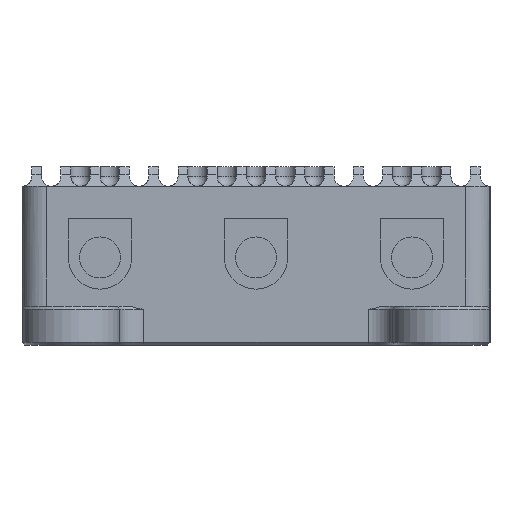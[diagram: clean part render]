
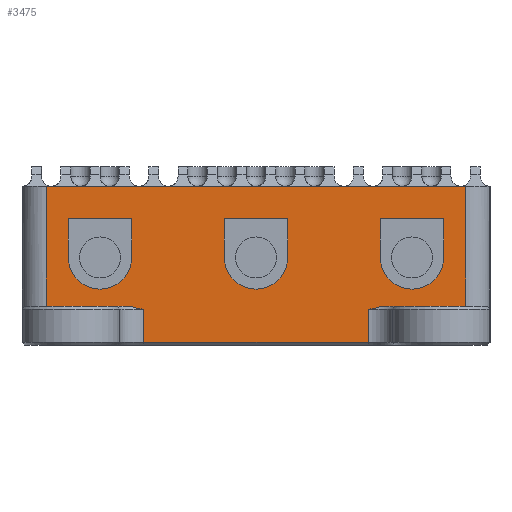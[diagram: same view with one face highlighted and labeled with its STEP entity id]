
A CAD part, left-side view. The second image highlights one B-rep face of the part: STEP entity #3475.
In plain terms, the highlighted planar face has unit normal (-1, 0, 0).
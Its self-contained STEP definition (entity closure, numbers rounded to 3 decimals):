
#1301=EDGE_CURVE('',#3855,#3856,#3857,.T.);
#1421=EDGE_CURVE('',#4072,#4073,#4074,.T.);
#1423=EDGE_CURVE('',#4076,#4073,#4077,.T.);
#1499=EDGE_CURVE('',#4205,#4206,#4207,.T.);
#1577=EDGE_CURVE('',#4337,#4338,#4339,.T.);
#1751=EDGE_CURVE('',#4638,#4639,#4640,.T.);
#2071=EDGE_CURVE('',#4076,#5137,#5138,.T.);
#2255=EDGE_CURVE('',#3856,#5403,#5404,.T.);
#2277=EDGE_CURVE('',#5122,#5436,#5437,.T.);
#2349=EDGE_CURVE('',#5541,#5122,#5542,.T.);
#2547=EDGE_CURVE('',#4639,#5810,#5811,.T.);
#2773=EDGE_CURVE('',#4337,#5820,#6105,.F.);
#2797=EDGE_CURVE('',#5896,#6137,#6138,.T.);
#2869=EDGE_CURVE('',#6228,#3855,#6229,.T.);
#2913=EDGE_CURVE('',#4338,#4072,#6282,.T.);
#3081=EDGE_CURVE('',#5436,#5137,#6491,.F.);
#3113=EDGE_CURVE('',#4061,#4638,#6530,.T.);
#3271=EDGE_CURVE('',#5403,#6228,#6731,.T.);
#3291=EDGE_CURVE('',#6137,#4205,#6751,.T.);
#3403=EDGE_CURVE('',#4206,#5896,#6884,.T.);
#3441=EDGE_CURVE('',#5810,#4061,#6927,.T.);
#3475=ADVANCED_FACE('',(#6966,#6967,#6968,#6969),#6970,.T.);
#3615=EDGE_CURVE('',#5820,#5541,#7135,.T.);
#3855=VERTEX_POINT('',#7413);
#3856=VERTEX_POINT('',#7414);
#3857=CIRCLE('',#7415,3.25);
#4061=VERTEX_POINT('',#7689);
#4072=VERTEX_POINT('',#7704);
#4073=VERTEX_POINT('',#7705);
#4074=LINE('',#7706,#7707);
#4076=VERTEX_POINT('',#7710);
#4077=LINE('',#7711,#7712);
#4205=VERTEX_POINT('',#7882);
#4206=VERTEX_POINT('',#7883);
#4207=LINE('',#7884,#7885);
#4337=VERTEX_POINT('',#8070);
#4338=VERTEX_POINT('',#8071);
#4339=LINE('',#8072,#8073);
#4638=VERTEX_POINT('',#8503);
#4639=VERTEX_POINT('',#8504);
#4640=LINE('',#8505,#8506);
#5122=VERTEX_POINT('',#9196);
#5137=VERTEX_POINT('',#9216);
#5138=LINE('',#9217,#9218);
#5403=VERTEX_POINT('',#9590);
#5404=LINE('',#9591,#9592);
#5436=VERTEX_POINT('',#9634);
#5437=LINE('',#9635,#9636);
#5541=VERTEX_POINT('',#9778);
#5542=LINE('',#9779,#9780);
#5810=VERTEX_POINT('',#10157);
#5811=LINE('',#10158,#10159);
#5820=VERTEX_POINT('',#10172);
#5896=VERTEX_POINT('',#10292);
#6105=(B_SPLINE_CURVE(2,(#10612,#10613,#10614),.UNSPECIFIED.,.F.,.F.)B_SPLINE_CURVE_WITH_KNOTS((3,3),(0.0,4.948),.UNSPECIFIED.)RATIONAL_B_SPLINE_CURVE((1.0,1.36,1.0))BOUNDED_CURVE()REPRESENTATION_ITEM('')GEOMETRIC_REPRESENTATION_ITEM()CURVE());
#6137=VERTEX_POINT('',#10663);
#6138=LINE('',#10664,#10665);
#6228=VERTEX_POINT('',#10800);
#6229=LINE('',#10801,#10802);
#6282=LINE('',#10879,#10880);
#6491=(B_SPLINE_CURVE(2,(#11178,#11179,#11180),.UNSPECIFIED.,.F.,.F.)B_SPLINE_CURVE_WITH_KNOTS((3,3),(0.0,4.948),.UNSPECIFIED.)RATIONAL_B_SPLINE_CURVE((1.0,1.36,1.0))BOUNDED_CURVE()REPRESENTATION_ITEM('')GEOMETRIC_REPRESENTATION_ITEM()CURVE());
#6530=CIRCLE('',#11254,3.25);
#6731=LINE('',#11548,#11549);
#6751=LINE('',#11586,#11587);
#6884=CIRCLE('',#11783,3.25);
#6927=LINE('',#11859,#11860);
#6966=FACE_OUTER_BOUND('',#11919,.T.);
#6967=FACE_BOUND('',#11920,.T.);
#6968=FACE_BOUND('',#11921,.T.);
#6969=FACE_BOUND('',#11922,.T.);
#6970=PLANE('',#11923);
#7135=LINE('',#12174,#12175);
#7413=CARTESIAN_POINT('',(-52.5,-19.25,9.0));
#7414=CARTESIAN_POINT('',(-52.5,-12.75,9.0));
#7415=AXIS2_PLACEMENT_3D('',#12539,#12540,#12541);
#7689=CARTESIAN_POINT('',(-52.5,12.75,9.0));
#7704=CARTESIAN_POINT('',(-52.5,-21.5,16.3));
#7705=CARTESIAN_POINT('',(-52.5,21.5,16.3));
#7706=CARTESIAN_POINT('',(-52.5,-0.209,16.3));
#7707=VECTOR('',#12749,1.0);
#7710=CARTESIAN_POINT('',(-52.5,21.5,4.0));
#7711=CARTESIAN_POINT('',(-52.5,21.5,12.5));
#7712=VECTOR('',#12750,1.0);
#7882=CARTESIAN_POINT('',(-52.5,-3.25,13.0));
#7883=CARTESIAN_POINT('',(-52.5,-3.25,9.0));
#7884=CARTESIAN_POINT('',(-52.5,-3.25,5.5));
#7885=VECTOR('',#12897,1.0);
#8070=CARTESIAN_POINT('',(-52.5,-12.761,4.0));
#8071=CARTESIAN_POINT('',(-52.5,-21.5,4.0));
#8072=CARTESIAN_POINT('',(-52.5,0.,4.0));
#8073=VECTOR('',#13032,1.0);
#8503=CARTESIAN_POINT('',(-52.5,19.25,9.0));
#8504=CARTESIAN_POINT('',(-52.5,19.25,13.0));
#8505=CARTESIAN_POINT('',(-52.5,19.25,5.5));
#8506=VECTOR('',#13324,1.0);
#9196=CARTESIAN_POINT('',(-52.5,11.5,0.3));
#9216=CARTESIAN_POINT('',(-52.5,12.761,4.0));
#9217=CARTESIAN_POINT('',(-52.5,0.,4.0));
#9218=VECTOR('',#13911,1.0);
#9590=CARTESIAN_POINT('',(-52.5,-12.75,13.0));
#9591=CARTESIAN_POINT('',(-52.5,-12.75,5.5));
#9592=VECTOR('',#14252,1.0);
#9634=CARTESIAN_POINT('',(-52.5,11.5,3.7));
#9635=CARTESIAN_POINT('',(-52.5,11.5,0.0));
#9636=VECTOR('',#14299,1.0);
#9778=CARTESIAN_POINT('',(-52.5,-11.5,0.3));
#9779=CARTESIAN_POINT('',(-52.5,0.,0.3));
#9780=VECTOR('',#14481,1.0);
#10157=CARTESIAN_POINT('',(-52.5,12.75,13.0));
#10158=CARTESIAN_POINT('',(-52.5,-0.454,13.0));
#10159=VECTOR('',#14869,1.0);
#10172=CARTESIAN_POINT('',(-52.5,-11.5,3.7));
#10292=CARTESIAN_POINT('',(-52.5,3.25,9.0));
#10612=CARTESIAN_POINT('',(-52.5,-9.196,4.6));
#10613=CARTESIAN_POINT('',(-52.5,-11.5,3.038));
#10614=CARTESIAN_POINT('',(-52.5,-13.804,4.6));
#10663=CARTESIAN_POINT('',(-52.5,3.25,13.0));
#10664=CARTESIAN_POINT('',(-52.5,3.25,5.5));
#10665=VECTOR('',#15290,1.0);
#10800=CARTESIAN_POINT('',(-52.5,-19.25,13.0));
#10801=CARTESIAN_POINT('',(-52.5,-19.25,5.5));
#10802=VECTOR('',#15411,1.0);
#10879=CARTESIAN_POINT('',(-52.5,-21.5,12.5));
#10880=VECTOR('',#15486,1.0);
#11178=CARTESIAN_POINT('',(-52.5,13.804,4.6));
#11179=CARTESIAN_POINT('',(-52.5,11.5,3.038));
#11180=CARTESIAN_POINT('',(-52.5,9.196,4.6));
#11254=AXIS2_PLACEMENT_3D('',#15871,#15872,#15873);
#11548=CARTESIAN_POINT('',(-52.5,-0.454,13.0));
#11549=VECTOR('',#16190,1.0);
#11586=CARTESIAN_POINT('',(-52.5,-0.454,13.0));
#11587=VECTOR('',#16204,1.0);
#11783=AXIS2_PLACEMENT_3D('',#16439,#16440,#16441);
#11859=CARTESIAN_POINT('',(-52.5,12.75,5.5));
#11860=VECTOR('',#16504,1.0);
#11919=EDGE_LOOP('',(#16559,#16560,#16561,#16562,#16563,#16564,#16565,#16566,#16567,#16568));
#11920=EDGE_LOOP('',(#16569,#16570,#16571,#16572));
#11921=EDGE_LOOP('',(#16573,#16574,#16575,#16576));
#11922=EDGE_LOOP('',(#16577,#16578,#16579,#16580));
#11923=AXIS2_PLACEMENT_3D('',#16581,#16582,#16583);
#12174=CARTESIAN_POINT('',(-52.5,-11.5,0.0));
#12175=VECTOR('',#16829,1.0);
#12539=CARTESIAN_POINT('',(-52.5,-16.0,9.0));
#12540=DIRECTION('',(1.0,0.,-0.0));
#12541=DIRECTION('',(0.0,0.0,1.0));
#12749=DIRECTION('',(0.,1.0,0.0));
#12750=DIRECTION('',(0.0,0.0,1.0));
#12897=DIRECTION('',(0.0,-0.0,-1.0));
#13032=DIRECTION('',(0.,-1.0,0.0));
#13324=DIRECTION('',(0.0,0.0,1.0));
#13911=DIRECTION('',(0.,-1.0,0.0));
#14252=DIRECTION('',(0.0,0.0,1.0));
#14299=DIRECTION('',(-0.0,-0.0,1.0));
#14481=DIRECTION('',(0.,1.0,-0.0));
#14869=DIRECTION('',(0.,-1.0,0.0));
#15290=DIRECTION('',(0.0,0.0,1.0));
#15411=DIRECTION('',(0.0,-0.0,-1.0));
#15486=DIRECTION('',(0.0,0.0,1.0));
#15871=CARTESIAN_POINT('',(-52.5,16.0,9.0));
#15872=DIRECTION('',(1.0,0.,-0.0));
#15873=DIRECTION('',(0.0,0.0,1.0));
#16190=DIRECTION('',(0.,-1.0,0.0));
#16204=DIRECTION('',(0.,-1.0,0.0));
#16439=CARTESIAN_POINT('',(-52.5,0.,9.0));
#16440=DIRECTION('',(1.0,0.,-0.0));
#16441=DIRECTION('',(0.0,0.0,1.0));
#16504=DIRECTION('',(0.0,-0.0,-1.0));
#16559=ORIENTED_EDGE('',*,*,#2913,.T.);
#16560=ORIENTED_EDGE('',*,*,#1421,.T.);
#16561=ORIENTED_EDGE('',*,*,#1423,.F.);
#16562=ORIENTED_EDGE('',*,*,#2071,.T.);
#16563=ORIENTED_EDGE('',*,*,#3081,.F.);
#16564=ORIENTED_EDGE('',*,*,#2277,.F.);
#16565=ORIENTED_EDGE('',*,*,#2349,.F.);
#16566=ORIENTED_EDGE('',*,*,#3615,.F.);
#16567=ORIENTED_EDGE('',*,*,#2773,.F.);
#16568=ORIENTED_EDGE('',*,*,#1577,.T.);
#16569=ORIENTED_EDGE('',*,*,#2255,.T.);
#16570=ORIENTED_EDGE('',*,*,#3271,.T.);
#16571=ORIENTED_EDGE('',*,*,#2869,.T.);
#16572=ORIENTED_EDGE('',*,*,#1301,.T.);
#16573=ORIENTED_EDGE('',*,*,#1751,.T.);
#16574=ORIENTED_EDGE('',*,*,#2547,.T.);
#16575=ORIENTED_EDGE('',*,*,#3441,.T.);
#16576=ORIENTED_EDGE('',*,*,#3113,.T.);
#16577=ORIENTED_EDGE('',*,*,#3291,.T.);
#16578=ORIENTED_EDGE('',*,*,#1499,.T.);
#16579=ORIENTED_EDGE('',*,*,#3403,.T.);
#16580=ORIENTED_EDGE('',*,*,#2797,.T.);
#16581=CARTESIAN_POINT('',(-52.5,0.,12.5));
#16582=DIRECTION('',(-1.0,0.,0.0));
#16583=DIRECTION('',(0.,-1.0,-0.0));
#16829=DIRECTION('',(-0.0,-0.0,-1.0));
